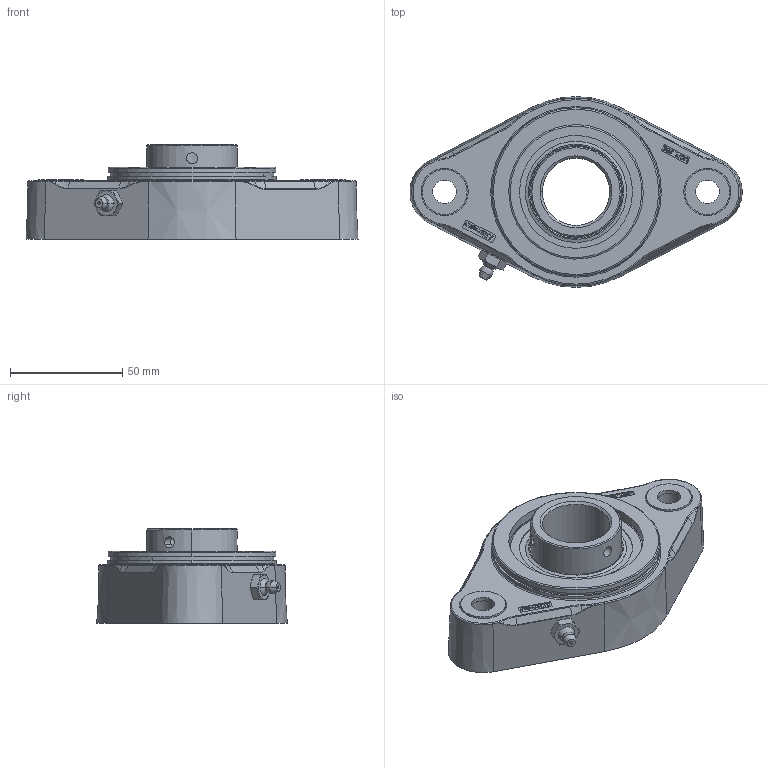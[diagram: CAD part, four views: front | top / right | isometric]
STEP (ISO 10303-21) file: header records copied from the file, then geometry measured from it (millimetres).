
FILE_DESCRIPTION(('CATIA V5 STEP Exchange'),'2;1');
FILE_NAME('C:\Users\dentellad\Desktop\P82212.stp','2017-01-18T10:52:38+00:00',('none'),('none'),'Version 5-6 Release 2012','CATIA V5 STEP AP203','none');
FILE_SCHEMA(('CONFIG_CONTROL_DESIGN'));
Length unit declared in the file: millimetre
Products named in the file (1): P82212
Assembly tree (7 placements, depth 2):
  P82212
    #58
    #52066
    #55042
    #56472  x2
    #56752  x2
Bounding box: 147.82 x 84.93 x 42.02 mm (x, y, z)
Volume: 171229.4 mm3; surface area: 56816.6 mm2
Topology: 20 solids, 20 shells, 1781 faces, 5037 edges, 3286 vertices
Faces by surface type: plane 1490, cylinder 112, cone 58, sphere 38, torus 38, bspline 25, revolution 20
Entity records: 56911 total; most frequent: CARTESIAN_POINT 12033, ORIENTED_EDGE 9910, DIRECTION 8067, EDGE_CURVE 4955, VECTOR 4467, LINE 4467, VERTEX_POINT 3266, AXIS2_PLACEMENT_3D 1964
